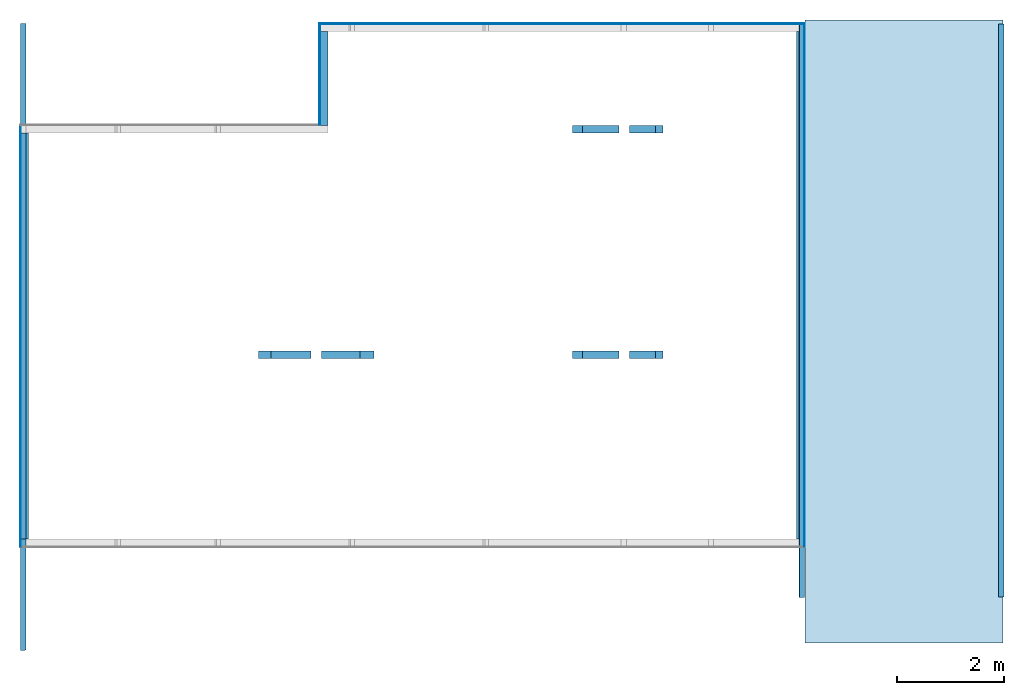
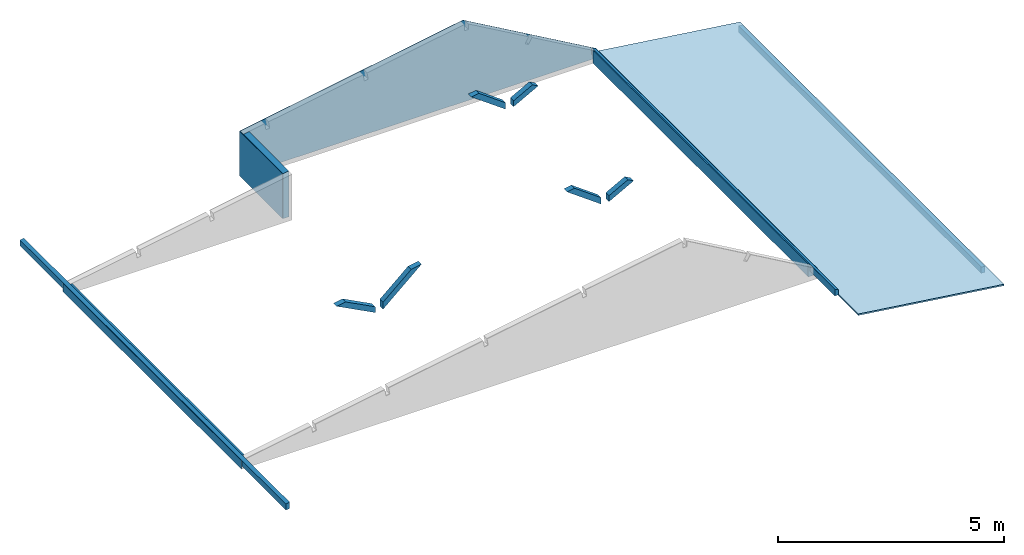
# One storey, part 1 of 2: 7 building element parts, 6 columns, 3 beams, 1 slab, 5 elements without a shape of their own.
"""IFC4 building model written with IfcOpenShell, lengths in centimetres."""

from ifc_helpers import new_model, entity, si_unit, converted_unit, derived_unit, direction, frame, origin, place, context, subcontext, project, spatial, indexed_curve, outline, extrude, polygons, source, transform, mapped, material, type_object, type_shapes, element, aggregate, save


model = new_model("IFC4")

# Units and contexts
model_context = context("Model", 3, precision=0.001, world=origin(), true_north=direction((6.123233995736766e-17, 1.0)))
body_context = subcontext(model_context, "Body", "Model", "MODEL_VIEW")
ifc_project = project(units=[si_unit("LENGTHUNIT", "METRE", prefix="CENTI"), si_unit("AREAUNIT", "SQUARE_METRE"), converted_unit("PLANEANGLEUNIT", "DEGREE", entity("IfcPlaneAngleMeasure", 0.017453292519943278), si_unit("PLANEANGLEUNIT", "RADIAN"), dimensions=[0, 0, 0, 0, 0, 0, 0]), si_unit("VOLUMEUNIT", "CUBIC_METRE"), derived_unit("THERMALTRANSMITTANCEUNIT", [(si_unit("MASSUNIT", "GRAM", prefix="KILO"), 1), (si_unit("THERMODYNAMICTEMPERATUREUNIT", "KELVIN"), -1), (si_unit("TIMEUNIT", "SECOND"), -3)])], contexts=[model_context])

# Site, building, storey
site_placement = place(None, frame((-0.003347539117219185, 0.0, 0.0)))
site = spatial("IfcSite", under=ifc_project, at=site_placement, Name="Default", CompositionType="ELEMENT")
building_placement = place(site_placement, origin())
building = spatial("IfcBuilding", under=site, at=building_placement, CompositionType="ELEMENT")
storey_placement = place(building_placement, frame((0.0, 0.0, 331.0)))
storey = spatial("IfcBuildingStorey", under=building, at=storey_placement, Name="+3.00", CompositionType="ELEMENT", Elevation=331.00000000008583)

# Columns
ifc_material_1 = material(Name="Bois - Pin", Category="Bois")
column_type_1 = type_object("IfcColumnType", Name="Poteau - Bois d'oeuvre:140x140", PredefinedType="COLUMN", material=ifc_material_1)
shared_shape_1 = source(origin(), body_context, "Body", "SweptSolid", [
    extrude(outline(indexed_curve([(-68.08537667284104, -6.999999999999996), (62.925225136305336, -7.000000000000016), (50.51023754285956, 7.000000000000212), (-45.35008600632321, 7.000000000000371), (-68.08537667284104, -6.999999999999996)], self_intersect=False)), frame((-6181.6509851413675, -2319.8758849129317, 397.49915423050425), z_axis=(0.0, 1.0, 0.0), x_axis=(-0.7481904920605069, 0.0, -0.6634839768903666)), (0.0, 0.0, 1.0), 14.000000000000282),
])
type_shapes(column_type_1, [shared_shape_1])
column_1_placement = place(storey_placement, frame((0.0, 0.0, -331.0)))
element("IfcColumn", 1, at=column_1_placement, inside=storey, type_object=column_type_1, material=ifc_material_1, Name="Poteau - Bois d'oeuvre:140x140", ObjectType="Poteau - Bois d'oeuvre:140x140", PredefinedType="COLUMN", context=body_context, shape_type="MappedRepresentation", body=[
    mapped(shared_shape_1, transform((0.0, 0.0, 0.0), scale=1.0)),
])
column_type_2 = type_object("IfcColumnType", Name="Poteau - Bois d'oeuvre:140x140", PredefinedType="COLUMN", material=ifc_material_1)
shared_shape_2 = source(origin(), body_context, "Body", "SweptSolid", [
    extrude(outline(indexed_curve([(-39.821235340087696, -7.000000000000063), (45.2782789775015, -7.0000000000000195), (52.5922724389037, 6.9999999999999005), (-58.049316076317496, 7.0000000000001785), (-39.821235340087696, -7.000000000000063)], self_intersect=False)), frame((-6287.459664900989, -2319.8758849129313, 378.88356171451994), z_axis=(0.0, 1.0, 0.0), x_axis=(0.8863342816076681, 0.0, -0.46304593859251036)), (0.0, 0.0, 1.0), 14.000000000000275),
])
type_shapes(column_type_2, [shared_shape_2])
column_2_placement = place(storey_placement, frame((0.0, 0.0, -331.0)))
element("IfcColumn", 2, at=column_2_placement, inside=storey, type_object=column_type_2, material=ifc_material_1, Name="Poteau - Bois d'oeuvre:140x140", ObjectType="Poteau - Bois d'oeuvre:140x140", PredefinedType="COLUMN", context=body_context, shape_type="MappedRepresentation", body=[
    mapped(shared_shape_2, transform((0.0, 0.0, 0.0), scale=1.0)),
])
column_type_3 = type_object("IfcColumnType", Name="Poteau - Bois d'oeuvre:140x140", PredefinedType="COLUMN", material=ifc_material_1)
shared_shape_3 = source(origin(), body_context, "Body", "SweptSolid", [
    extrude(outline(indexed_curve([(-35.858207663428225, -7.000000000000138), (35.36320355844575, -7.00000000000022), (27.749223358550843, 6.999999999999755), (-27.254219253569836, 6.999999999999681), (-35.858207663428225, -7.000000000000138)], self_intersect=False)), frame((-5619.864981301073, -2319.8758849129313, 461.9058089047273), z_axis=(0.0, 1.0, 0.0), x_axis=(-0.8784853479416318, 0.0, -0.477769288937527)), (0.0, 0.0, 1.0), 13.999999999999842),
])
type_shapes(column_type_3, [shared_shape_3])
column_3_placement = place(storey_placement, frame((0.0, 0.0, -331.0)))
element("IfcColumn", 3, at=column_3_placement, inside=storey, type_object=column_type_3, material=ifc_material_1, Name="Poteau - Bois d'oeuvre:140x140", ObjectType="Poteau - Bois d'oeuvre:140x140", PredefinedType="COLUMN", context=body_context, shape_type="MappedRepresentation", body=[
    mapped(shared_shape_3, transform((0.0, 0.0, 0.0), scale=1.0)),
])
column_type_4 = type_object("IfcColumnType", Name="Poteau - Bois d'oeuvre:140x140", PredefinedType="COLUMN", material=ifc_material_1)
shared_shape_4 = source(origin(), body_context, "Body", "SweptSolid", [
    extrude(outline(indexed_curve([(-41.20573125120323, -6.99999999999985), (42.87565769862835, -6.999999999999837), (53.062952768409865, 7.000000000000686), (-54.732879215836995, 7.000000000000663), (-41.20573125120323, -6.99999999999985)], self_intersect=False)), frame((-5706.373941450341, -2319.8758849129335, 475.97805571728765), z_axis=(0.0, 1.0, 0.0), x_axis=(0.8085855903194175, 0.0, -0.5883785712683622)), (0.0, 0.0, 1.0), 14.000000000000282),
])
type_shapes(column_type_4, [shared_shape_4])
column_4_placement = place(storey_placement, frame((0.0, 0.0, -331.0)))
element("IfcColumn", 4, at=column_4_placement, inside=storey, type_object=column_type_4, material=ifc_material_1, Name="Poteau - Bois d'oeuvre:140x140", ObjectType="Poteau - Bois d'oeuvre:140x140", PredefinedType="COLUMN", context=body_context, shape_type="MappedRepresentation", body=[
    mapped(shared_shape_4, transform((0.0, 0.0, 0.0), scale=1.0)),
])
column_type_5 = type_object("IfcColumnType", Name="Poteau - Bois d'oeuvre:140x140", PredefinedType="COLUMN", material=ifc_material_1)
shared_shape_5 = source(origin(), body_context, "Body", "SweptSolid", [
    extrude(outline(indexed_curve([(-35.8582076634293, -6.999999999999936), (35.363203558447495, -6.99999999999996), (27.74922335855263, 7.000000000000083), (-27.254219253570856, 6.999999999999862), (-35.8582076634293, -6.999999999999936)], self_intersect=False)), frame((-5619.864981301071, -1897.8758849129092, 461.9058089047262), z_axis=(0.0, 1.0, 0.0), x_axis=(-0.8784853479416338, 0.0, -0.47776928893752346)), (0.0, 0.0, 1.0), 13.999999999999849),
])
type_shapes(column_type_5, [shared_shape_5])
column_5_placement = place(storey_placement, frame((0.0, 0.0, -331.0)))
element("IfcColumn", 5, at=column_5_placement, inside=storey, type_object=column_type_5, material=ifc_material_1, Name="Poteau - Bois d'oeuvre:140x140", ObjectType="Poteau - Bois d'oeuvre:140x140", PredefinedType="COLUMN", context=body_context, shape_type="MappedRepresentation", body=[
    mapped(shared_shape_5, transform((0.0, 0.0, 0.0), scale=1.0)),
])
column_type_6 = type_object("IfcColumnType", Name="Poteau - Bois d'oeuvre:140x140", PredefinedType="COLUMN", material=ifc_material_1)
shared_shape_6 = source(origin(), body_context, "Body", "SweptSolid", [
    extrude(outline(indexed_curve([(-41.20573125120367, -7.000000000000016), (42.87565769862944, -7.000000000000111), (53.062952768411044, 7.00000000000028), (-54.732879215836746, 6.999999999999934), (-41.20573125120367, -7.000000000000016)], self_intersect=False)), frame((-5706.373941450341, -1897.875884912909, 475.97805571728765), z_axis=(0.0, 1.0, 0.0), x_axis=(0.8085855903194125, 0.0, -0.5883785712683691)), (0.0, 0.0, 1.0), 13.999999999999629),
])
type_shapes(column_type_6, [shared_shape_6])
column_6_placement = place(storey_placement, frame((0.0, 0.0, -331.0)))
element("IfcColumn", 6, at=column_6_placement, inside=storey, type_object=column_type_6, material=ifc_material_1, Name="Poteau - Bois d'oeuvre:140x140", ObjectType="Poteau - Bois d'oeuvre:140x140", PredefinedType="COLUMN", context=body_context, shape_type="MappedRepresentation", body=[
    mapped(shared_shape_6, transform((0.0, 0.0, 0.0), scale=1.0)),
])

# Beams
ifc_material_2 = material(Name="BLC - GL24h", Category="Bois")
beam_type_1 = type_object("IfcBeamType", Name="Poutre - Lamellé-collé:10x18", PredefinedType="BEAM", material=ifc_material_2)
shared_shape_7 = source(origin(), body_context, "Body", "Tessellation", [
    polygons([(9.094947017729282e-13, 1.3642420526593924e-12, 15.881030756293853), (1.8189894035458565e-12, 4.547473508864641e-12, 5.684341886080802e-14), (10.000000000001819, 0.6781070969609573, 5.684341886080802e-14), (10.0, 0.6781070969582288, 17.633879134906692), (5.4569682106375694e-12, 1174.7660946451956, 15.88103075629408), (3.637978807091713e-12, 1174.7660946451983, 5.684341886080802e-14), (10.000000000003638, 1174.7660946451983, 5.684341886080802e-14), (10.000000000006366, 1174.7660946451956, 17.63387913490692)], [[[1, 2, 3, 4]], [[5, 6, 2, 1]], [[6, 7, 3, 2]], [[7, 8, 4, 3]], [[8, 7, 6, 5]], [[1, 4, 8, 5]]], closed=True),
])
type_shapes(beam_type_1, [shared_shape_7])
beam_1_placement = place(storey_placement, frame((-6788.086652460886, -2866.9690206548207, 7.0)))
element("IfcBeam", 7, at=beam_1_placement, inside=storey, type_object=beam_type_1, material=ifc_material_2, Name="Poutre - Lamellé-collé:10x18", ObjectType="Poutre - Lamellé-collé:10x18", PredefinedType="BEAM", context=body_context, shape_type="MappedRepresentation", body=[
    mapped(shared_shape_7, transform((0.0, 0.0, 0.0), scale=1.0)),
])
beam_type_2 = type_object("IfcBeamType", Name="Poutre - Lamellé-collé:10x18", PredefinedType="BEAM", material=ifc_material_2)
shared_shape_8 = source(origin(), body_context, "Body", "Tessellation", [
    polygons([(0.4931362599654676, 0.033439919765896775, 18.00000000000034), (-9.094947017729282e-13, 4.547473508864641e-13, 18.000000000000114), (-9.094947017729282e-13, 4.547473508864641e-13, -5.684341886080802e-14), (10.0, 0.6781070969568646, -5.684341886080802e-14), (9.99999999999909, 0.6781070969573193, 12.536285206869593), (0.4931362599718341, 1074.682087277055, 17.99999999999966), (2.7284841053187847e-12, 1074.6820872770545, 18.000000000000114), (2.7284841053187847e-12, 1074.6820872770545, -5.684341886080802e-14), (10.000000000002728, 1074.6820872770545, -5.684341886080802e-14), (10.000000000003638, 1074.682087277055, 12.536285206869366)], [[[1, 2, 3, 4, 5]], [[6, 7, 2, 1]], [[7, 8, 3, 2]], [[8, 9, 4, 3]], [[9, 10, 5, 4]], [[7, 6, 10, 9, 8]], [[1, 5, 10, 6]]], closed=True),
])
type_shapes(beam_type_2, [shared_shape_8])
beam_2_placement = place(storey_placement, frame((-5330.0866524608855, -2768.1010059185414, 14.0)))
element("IfcBeam", 8, at=beam_2_placement, inside=storey, type_object=beam_type_2, material=ifc_material_2, Name="Poutre - Lamellé-collé:10x18", ObjectType="Poutre - Lamellé-collé:10x18", PredefinedType="BEAM", context=body_context, shape_type="MappedRepresentation", body=[
    mapped(shared_shape_8, transform((0.0, 0.0, 0.0), scale=1.0)),
])
beam_type_3 = type_object("IfcBeamType", Name="Poutre - Lamellé-collé:10x18", PredefinedType="BEAM", material=ifc_material_2)
shared_shape_9 = source(origin(), body_context, "Body", "SweptSolid", [
    extrude(outline(indexed_curve([(-5.000000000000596, -8.335300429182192), (4.999999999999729, -8.335300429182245), (5.000000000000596, 9.005901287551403), (-5.000000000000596, 7.664699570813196), (-5.000000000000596, -8.335300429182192)], self_intersect=False)), frame((-4951.086652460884, -2766.9925692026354, 282.33530042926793), z_axis=(0.0, 1.0, 0.0), x_axis=(-1.0, 0.0, 0.0)), (0.0, 0.0, 1.0), 1073.549999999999),
])
type_shapes(beam_type_3, [shared_shape_9])
beam_3_placement = place(storey_placement, frame((0.0, 0.0, -331.0)))
element("IfcBeam", 9, at=beam_3_placement, inside=storey, type_object=beam_type_3, material=ifc_material_2, Name="Poutre - Lamellé-collé:10x18", ObjectType="Poutre - Lamellé-collé:10x18", PredefinedType="BEAM", context=body_context, shape_type="MappedRepresentation", body=[
    mapped(shared_shape_9, transform((0.0, 0.0, 0.0), scale=1.0)),
])

# Roof, slab
roof_placement = place(storey_placement, frame((-5319.180339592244, -2852.8758849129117, -40.82901334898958)))
roof = element("IfcRoof", 10, at=roof_placement, inside=storey, Name="Toit de base:Bac Acier 3.333.39 T", ObjectType="Toit de base:Bac Acier 3.333.39 T", PredefinedType="NOTDEFINED")
ifc_material_3 = material(Name="Panneau métallique", Category="Métal")
roof_type = type_object("IfcRoofType", Name="Toit de base:Bac Acier 3.333.39 T", PredefinedType="NOTDEFINED")
slab_placement = place(roof_placement, origin())
slab = element("IfcSlab", 11, at=slab_placement, type_object=roof_type, material=ifc_material_3, Name="Toit de base:Bac Acier 3.333.39 T", ObjectType="Toit de base:Bac Acier 3.333.39 T", PredefinedType="ROOF", context=body_context, shape_type="SweptSolid", body=[
    extrude(outline(indexed_curve([(187.44269241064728, -583.5000000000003), (187.44269241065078, 583.4999999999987), (-187.44269241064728, 583.5000000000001), (-187.44269241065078, -583.499999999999), (187.44269241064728, -583.5000000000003)], self_intersect=False)), frame((185.77922100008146, 583.5000000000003, 24.916741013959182), z_axis=(0.1329299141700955, 0.0, 0.9911254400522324), x_axis=(0.9911254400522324, 0.0, -0.1329299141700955)), (-0.1329299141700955, 0.0, 0.9911254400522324), 3.9349206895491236),
])
aggregate(roof, [slab])

# Wall, building element parts
wall_type = type_object("IfcWallType", Name="Mur de base:MOB - 145+12 mm", PredefinedType="STANDARD")
wall_1_placement = place(storey_placement, frame((-6781.436652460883, -1897.8758849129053, -331.0), z_axis=(0.0, 0.0, 1.0), x_axis=(0.0, -1.0, 0.0)))
wall_1 = element("IfcWall", 12, at=wall_1_placement, inside=storey, type_object=wall_type, Name="Mur de base:MOB - 145+12 mm", ObjectType="Mur de base:MOB - 145+12 mm", PredefinedType="NOTDEFINED")
ifc_material_4 = material(Name="Panneau de grandes particules orientées", Category="Bois")
building_element_part_1_placement = place(wall_1_placement, origin())
building_element_part_1 = element("IfcBuildingElementPart", 13, at=building_element_part_1_placement, material=ifc_material_4, Name="Panneau de grandes particules orientées", context=body_context, shape_type="Tessellation", body=[
    polygons([(774.5, -7.849999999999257, 331.00000000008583), (-14.5, -7.849999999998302, 331.00000000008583), (-14.5, -6.649999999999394, 331.00000000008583), (774.5, -6.649999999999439, 331.00000000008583), (-14.5, -7.849999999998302, 353.67068895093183), (774.5, -7.849999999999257, 353.6706889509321), (774.5, -6.649999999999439, 353.8810307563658), (-14.5, -6.649999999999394, 353.8810307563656)], [[[1, 2, 3, 4]], [[5, 6, 7, 8]], [[7, 4, 3, 8]], [[2, 1, 6, 5]], [[2, 5, 8, 3]], [[6, 1, 4, 7]]], closed=True),
])
ifc_material_5 = material(Name="Structure, couche de solives/chevrons en bois d'oeuvre", Category="Divers")
building_element_part_2_placement = place(wall_1_placement, origin())
building_element_part_2 = element("IfcBuildingElementPart", 14, at=building_element_part_2_placement, material=ifc_material_5, Name="Structure, couche de solives/chevrons en bois d'oeuvre", context=body_context, shape_type="Tessellation", body=[
    polygons([(2.2737367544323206e-13, -6.649999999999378, 331.00000000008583), (759.9999999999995, -6.649999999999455, 331.00000000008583), (759.9999999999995, -6.6500000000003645, 338.00000000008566), (2.2737367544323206e-13, -6.649999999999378, 338.00000000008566), (759.9999999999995, 7.850000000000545, 331.00000000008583), (2.2737367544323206e-13, 7.850000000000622, 331.00000000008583), (2.2737367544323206e-13, 7.850000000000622, 356.42266090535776), (759.9999999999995, 7.850000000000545, 356.422660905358), (2.2737367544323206e-13, 3.3499999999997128, 355.6338791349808), (759.9999999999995, 3.349999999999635, 355.63387913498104), (759.9999999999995, 3.349999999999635, 338.00000000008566), (2.2737367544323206e-13, 3.3499999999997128, 338.00000000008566)], [[[1, 2, 3, 4]], [[5, 6, 7, 8]], [[6, 5, 2, 1]], [[8, 7, 9, 10]], [[3, 11, 12, 4]], [[10, 9, 12, 11]], [[5, 8, 10, 11, 3, 2]], [[7, 6, 1, 4, 12, 9]]], closed=True),
])
aggregate(wall_1, [building_element_part_1, building_element_part_2])

wall_2_placement = place(storey_placement, frame((-5326.736652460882, -2657.87588491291, -331.0), z_axis=(0.0, 0.0, 1.0), x_axis=(0.0, 1.0, 0.0)))
wall_2 = element("IfcWall", 15, at=wall_2_placement, inside=storey, type_object=wall_type, Name="Mur de base:MOB - 145+12 mm", ObjectType="Mur de base:MOB - 145+12 mm", PredefinedType="NOTDEFINED")
building_element_part_3_placement = place(wall_2_placement, origin())
building_element_part_3 = element("IfcBuildingElementPart", 16, at=building_element_part_3_placement, material=ifc_material_4, Name="Panneau de grandes particules orientées", context=body_context, shape_type="Tessellation", body=[
    polygons([(964.4999999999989, -7.849999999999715, 331.00000000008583), (-14.499999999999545, -7.850000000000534, 331.00000000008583), (-14.499999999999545, -6.650000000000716, 331.00000000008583), (964.4999999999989, -6.649999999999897, 331.00000000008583), (-14.499999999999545, -7.850000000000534, 356.84663003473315), (964.4999999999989, -7.849999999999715, 356.84663003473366), (964.4999999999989, -6.649999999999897, 357.5362852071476), (-14.499999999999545, -6.650000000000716, 357.536285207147)], [[[1, 2, 3, 4]], [[5, 6, 7, 8]], [[7, 4, 3, 8]], [[2, 1, 6, 5]], [[2, 5, 8, 3]], [[6, 1, 4, 7]]], closed=True),
])
building_element_part_4_placement = place(wall_2_placement, origin())
building_element_part_4 = element("IfcBuildingElementPart", 17, at=building_element_part_4_placement, material=ifc_material_5, Name="Structure, couche de solives/chevrons en bois d'oeuvre", context=body_context, shape_type="Tessellation", body=[
    polygons([(-4.547473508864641e-13, -6.6500000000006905, 331.00000000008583), (949.9999999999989, -6.649999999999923, 331.00000000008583), (949.9999999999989, -6.649999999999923, 345.00000000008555), (-4.547473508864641e-13, -6.649999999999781, 345.00000000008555), (949.9999999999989, 7.849999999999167, 331.00000000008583), (-4.547473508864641e-13, 7.8499999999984, 331.00000000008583), (-4.547473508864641e-13, 7.8499999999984, 365.86961854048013), (949.9999999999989, 7.849999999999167, 365.8696185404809), (-4.547473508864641e-13, 3.3500000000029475, 345.00000000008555), (-4.547473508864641e-13, 3.3500000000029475, 363.0000000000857), (-4.547473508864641e-13, 2.856863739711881, 363.0000000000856), (949.9999999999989, 2.856863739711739, 363.0000000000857), (949.9999999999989, 3.350000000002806, 363.0000000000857), (949.9999999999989, 3.3500000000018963, 345.00000000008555)], [[[1, 2, 3, 4]], [[5, 6, 7, 8]], [[6, 5, 2, 1]], [[7, 6, 1, 4, 9, 10, 11]], [[8, 7, 11, 12]], [[11, 10, 13, 12]], [[9, 4, 3, 14]], [[10, 9, 14, 13]], [[5, 8, 12, 13, 14, 3, 2]]], closed=True),
])
aggregate(wall_2, [building_element_part_3, building_element_part_4])

# Wall, building element part
wall_3_placement = place(storey_placement, frame((-5318.886652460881, -1700.025884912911, -331.0), z_axis=(0.0, 0.0, 1.0), x_axis=(-1.0, 0.0, 0.0)))
wall_3 = element("IfcWall", 18, at=wall_3_placement, inside=storey, type_object=wall_type, Name="Mur de base:MOB - 145+12 mm", ObjectType="Mur de base:MOB - 145+12 mm", PredefinedType="NOTDEFINED")
building_element_part_5_placement = place(wall_3_placement, origin())
building_element_part_5 = element("IfcBuildingElementPart", 19, at=building_element_part_5_placement, material=ifc_material_4, Name="Panneau de grandes particules orientées", context=body_context, shape_type="Tessellation", body=[
    polygons([(909.4000000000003, -7.850000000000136, 331.00000000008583), (1.6340787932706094e-12, -7.849999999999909, 331.00000000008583), (1.630077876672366e-12, -6.649999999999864, 331.00000000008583), (909.4000000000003, -6.650000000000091, 331.00000000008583), (909.4000000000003, -7.850000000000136, 452.0054829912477), (909.4000000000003, -6.650000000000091, 452.0054829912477), (1.6340787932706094e-12, -7.849999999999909, 356.84663003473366), (339.4183190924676, -7.849999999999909, 551.9146295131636), (339.4183190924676, -6.649999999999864, 551.9146295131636), (10.70686373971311, -6.649999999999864, 363.00000000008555), (1.2000000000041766, -6.649999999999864, 357.53628520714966), (-1.889115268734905e-13, -6.649999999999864, 356.8466300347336)], [[[1, 2, 3, 4]], [[5, 1, 4, 6]], [[7, 8, 9, 10, 11, 12]], [[8, 5, 6, 9]], [[2, 7, 12, 3]], [[4, 3, 12, 11, 10, 9, 6]], [[2, 1, 5, 8, 7]]], closed=True),
])
aggregate(wall_3, [building_element_part_5])

# Wall, building element parts
wall_4_placement = place(storey_placement, frame((-6220.43665246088, -1707.8758849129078, -331.0), z_axis=(0.0, 0.0, 1.0), x_axis=(0.0, -1.0, 0.0)))
wall_4 = element("IfcWall", 20, at=wall_4_placement, inside=storey, type_object=wall_type, Name="Mur de base:MOB - 145+12 mm", ObjectType="Mur de base:MOB - 145+12 mm", PredefinedType="NOTDEFINED")
building_element_part_6_placement = place(wall_4_placement, origin())
building_element_part_6 = element("IfcBuildingElementPart", 21, at=building_element_part_6_placement, material=ifc_material_4, Name="Panneau de grandes particules orientées", context=body_context, shape_type="Tessellation", body=[
    polygons([(174.2999999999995, -7.850000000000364, 331.00000000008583), (-14.5, -7.850000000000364, 331.00000000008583), (-14.5, -6.650000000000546, 331.00000000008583), (174.2999999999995, -6.650000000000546, 331.00000000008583), (-14.5, -7.850000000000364, 452.0054829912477), (174.2999999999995, -7.850000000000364, 452.00548299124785), (174.2999999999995, -6.650000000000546, 452.21582479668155), (-14.5, -6.650000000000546, 452.21582479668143)], [[[1, 2, 3, 4]], [[5, 6, 7, 8]], [[6, 1, 4, 7]], [[4, 3, 8, 7]], [[2, 1, 6, 5]], [[2, 5, 8, 3]]], closed=True),
])
building_element_part_7_placement = place(wall_4_placement, origin())
building_element_part_7 = element("IfcBuildingElementPart", 22, at=building_element_part_7_placement, material=ifc_material_5, Name="Structure, couche de solives/chevrons en bois d'oeuvre", context=body_context, shape_type="Tessellation", body=[
    polygons([(-2.2737367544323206e-13, -6.650000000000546, 331.00000000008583), (175.49999999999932, -6.650000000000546, 331.00000000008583), (175.49999999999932, -6.650000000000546, 452.2158247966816), (-2.2737367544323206e-13, -6.650000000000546, 452.21582479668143), (-2.2737367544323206e-13, 7.849999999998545, 331.00000000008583), (-2.2737367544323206e-13, 7.849999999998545, 454.7574549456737), (175.49999999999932, 7.849999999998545, 454.7574549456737), (175.49999999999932, 7.849999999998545, 331.00000000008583)], [[[1, 2, 3, 4]], [[5, 6, 7, 8]], [[5, 8, 2, 1]], [[6, 5, 1, 4]], [[7, 6, 4, 3]], [[8, 7, 3, 2]]], closed=True),
])
aggregate(wall_4, [building_element_part_6, building_element_part_7])

save(model, "model.ifc")
